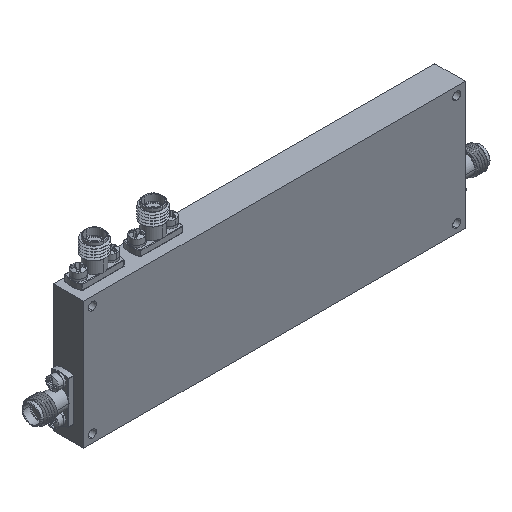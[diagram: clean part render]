
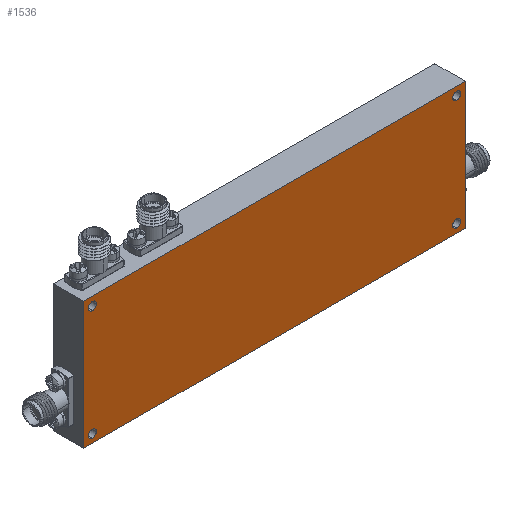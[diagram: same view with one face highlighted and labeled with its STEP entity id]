
A CAD part, isometric view. The second image highlights one B-rep face of the part: STEP entity #1536.
In plain terms, the highlighted planar face has unit normal (0, -1, 0).
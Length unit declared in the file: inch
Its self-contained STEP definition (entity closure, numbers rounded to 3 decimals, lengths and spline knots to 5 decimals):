
#170 = CARTESIAN_POINT ( 'NONE',  ( -1.996, -0.33, 0.6055 ) ) ;
#391 = CARTESIAN_POINT ( 'NONE',  ( -2.088, -0.33, -0.6975 ) ) ;
#949 = AXIS2_PLACEMENT_3D ( 'NONE', #170, #37890, #42890 ) ;
#955 = CARTESIAN_POINT ( 'NONE',  ( -1.996, -0.33, -0.6055 ) ) ;
#1498 = DIRECTION ( 'NONE',  ( 0., 0., -1. ) ) ;
#1536 = ADVANCED_FACE ( 'NONE', ( #36890, #20963, #8079, #33499, #34590 ), #8871, .F. ) ;
#1844 = EDGE_LOOP ( 'NONE', ( #38296, #38727, #9614, #21296 ) ) ;
#3209 = VERTEX_POINT ( 'NONE', #13714 ) ;
#3523 = CARTESIAN_POINT ( 'NONE',  ( 1.996, -0.33, -0.6055 ) ) ;
#5358 = DIRECTION ( 'NONE',  ( 0., -1., 0. ) ) ;
#5624 = CARTESIAN_POINT ( 'NONE',  ( 1.996, -0.33, -0.6485 ) ) ;
#5697 = CIRCLE ( 'NONE', #12882, 0.043 ) ;
#6558 = ORIENTED_EDGE ( 'NONE', *, *, #21764, .F. ) ;
#6742 = CIRCLE ( 'NONE', #14849, 0.043 ) ;
#6822 = ORIENTED_EDGE ( 'NONE', *, *, #42349, .F. ) ;
#6830 = ORIENTED_EDGE ( 'NONE', *, *, #43919, .F. ) ;
#7447 = EDGE_CURVE ( 'NONE', #39014, #39510, #9617, .T. ) ;
#7762 = CARTESIAN_POINT ( 'NONE',  ( 1.996, -0.33, 0.6055 ) ) ;
#8079 = FACE_BOUND ( 'NONE', #18017, .T. ) ;
#8117 = DIRECTION ( 'NONE',  ( 0., -1., 0. ) ) ;
#8611 = DIRECTION ( 'NONE',  ( 0., 0., 1. ) ) ;
#8871 = PLANE ( 'NONE',  #24248 ) ;
#9129 = ORIENTED_EDGE ( 'NONE', *, *, #26088, .F. ) ;
#9614 = ORIENTED_EDGE ( 'NONE', *, *, #7447, .F. ) ;
#9617 = LINE ( 'NONE', #35071, #52936 ) ;
#9668 = CIRCLE ( 'NONE', #24010, 0.043 ) ;
#11256 = AXIS2_PLACEMENT_3D ( 'NONE', #52025, #5358, #18256 ) ;
#11668 = DIRECTION ( 'NONE',  ( 0., 0., -1. ) ) ;
#11729 = CARTESIAN_POINT ( 'NONE',  ( -2.088, -0.33, 0.6975 ) ) ;
#11739 = ORIENTED_EDGE ( 'NONE', *, *, #37115, .F. ) ;
#12079 = VERTEX_POINT ( 'NONE', #5624 ) ;
#12632 = AXIS2_PLACEMENT_3D ( 'NONE', #7762, #41844, #33454 ) ;
#12882 = AXIS2_PLACEMENT_3D ( 'NONE', #16255, #8117, #50303 ) ;
#13076 = CIRCLE ( 'NONE', #11256, 0.043 ) ;
#13548 = EDGE_CURVE ( 'NONE', #40388, #39014, #52680, .T. ) ;
#13714 = CARTESIAN_POINT ( 'NONE',  ( -1.996, -0.33, -0.6485 ) ) ;
#13896 = DIRECTION ( 'NONE',  ( 0., 0., -1. ) ) ;
#13922 = EDGE_CURVE ( 'NONE', #39510, #31216, #38672, .T. ) ;
#13986 = VERTEX_POINT ( 'NONE', #50817 ) ;
#14214 = ORIENTED_EDGE ( 'NONE', *, *, #31932, .F. ) ;
#14441 = DIRECTION ( 'NONE',  ( 1., 0., 0. ) ) ;
#14849 = AXIS2_PLACEMENT_3D ( 'NONE', #21186, #47922, #13896 ) ;
#15699 = CARTESIAN_POINT ( 'NONE',  ( -2.088, -0.33, -0.6975 ) ) ;
#16255 = CARTESIAN_POINT ( 'NONE',  ( 1.996, -0.33, -0.6055 ) ) ;
#17465 = DIRECTION ( 'NONE',  ( -1., 0., 0. ) ) ;
#17524 = CARTESIAN_POINT ( 'NONE',  ( -2.088, -0.33, 0.6975 ) ) ;
#18017 = EDGE_LOOP ( 'NONE', ( #6558, #11739 ) ) ;
#18256 = DIRECTION ( 'NONE',  ( 0., 0., -1. ) ) ;
#18515 = CARTESIAN_POINT ( 'NONE',  ( -1.996, -0.33, 0.5625 ) ) ;
#18842 = CARTESIAN_POINT ( 'NONE',  ( -1.996, -0.33, 0.6055 ) ) ;
#18877 = VECTOR ( 'NONE', #17465, 39.37008 ) ;
#20963 = FACE_BOUND ( 'NONE', #28020, .T. ) ;
#21186 = CARTESIAN_POINT ( 'NONE',  ( -1.996, -0.33, -0.6055 ) ) ;
#21296 = ORIENTED_EDGE ( 'NONE', *, *, #13548, .F. ) ;
#21506 = EDGE_CURVE ( 'NONE', #12079, #52255, #52634, .T. ) ;
#21555 = VECTOR ( 'NONE', #14441, 39.37008 ) ;
#21764 = EDGE_CURVE ( 'NONE', #51776, #52760, #35731, .T. ) ;
#22430 = CIRCLE ( 'NONE', #12632, 0.043 ) ;
#22465 = ORIENTED_EDGE ( 'NONE', *, *, #31604, .F. ) ;
#24010 = AXIS2_PLACEMENT_3D ( 'NONE', #18842, #48688, #35862 ) ;
#24248 = AXIS2_PLACEMENT_3D ( 'NONE', #25150, #37972, #8611 ) ;
#25150 = CARTESIAN_POINT ( 'NONE',  ( 0., -0.33, 0. ) ) ;
#26088 = EDGE_CURVE ( 'NONE', #35935, #13986, #22430, .T. ) ;
#28020 = EDGE_LOOP ( 'NONE', ( #9129, #6830 ) ) ;
#31216 = VERTEX_POINT ( 'NONE', #50020 ) ;
#31476 = CARTESIAN_POINT ( 'NONE',  ( 1.996, -0.33, 0.5625 ) ) ;
#31604 = EDGE_CURVE ( 'NONE', #43045, #3209, #6742, .T. ) ;
#31932 = EDGE_CURVE ( 'NONE', #3209, #43045, #43357, .T. ) ;
#33454 = DIRECTION ( 'NONE',  ( 0., 0., -1. ) ) ;
#33499 = FACE_BOUND ( 'NONE', #42374, .T. ) ;
#34507 = DIRECTION ( 'NONE',  ( 0., 0., -1. ) ) ;
#34590 = FACE_BOUND ( 'NONE', #49546, .T. ) ;
#34757 = DIRECTION ( 'NONE',  ( 0., -1., 0. ) ) ;
#35071 = CARTESIAN_POINT ( 'NONE',  ( 2.088, -0.33, -0.6975 ) ) ;
#35691 = AXIS2_PLACEMENT_3D ( 'NONE', #3523, #45449, #11668 ) ;
#35731 = CIRCLE ( 'NONE', #949, 0.043 ) ;
#35862 = DIRECTION ( 'NONE',  ( 0., 0., -1. ) ) ;
#35935 = VERTEX_POINT ( 'NONE', #31476 ) ;
#36890 = FACE_OUTER_BOUND ( 'NONE', #1844, .T. ) ;
#37115 = EDGE_CURVE ( 'NONE', #52760, #51776, #9668, .T. ) ;
#37451 = LINE ( 'NONE', #15699, #43734 ) ;
#37890 = DIRECTION ( 'NONE',  ( 0., -1., 0. ) ) ;
#37972 = DIRECTION ( 'NONE',  ( 0., 1., 0. ) ) ;
#38257 = ORIENTED_EDGE ( 'NONE', *, *, #21506, .F. ) ;
#38296 = ORIENTED_EDGE ( 'NONE', *, *, #38484, .F. ) ;
#38484 = EDGE_CURVE ( 'NONE', #31216, #40388, #37451, .T. ) ;
#38672 = LINE ( 'NONE', #391, #18877 ) ;
#38727 = ORIENTED_EDGE ( 'NONE', *, *, #13922, .F. ) ;
#39014 = VERTEX_POINT ( 'NONE', #50676 ) ;
#39510 = VERTEX_POINT ( 'NONE', #54456 ) ;
#40388 = VERTEX_POINT ( 'NONE', #11729 ) ;
#41844 = DIRECTION ( 'NONE',  ( 0., -1., 0. ) ) ;
#42349 = EDGE_CURVE ( 'NONE', #52255, #12079, #5697, .T. ) ;
#42374 = EDGE_LOOP ( 'NONE', ( #14214, #22465 ) ) ;
#42890 = DIRECTION ( 'NONE',  ( 0., 0., -1. ) ) ;
#43045 = VERTEX_POINT ( 'NONE', #47333 ) ;
#43357 = CIRCLE ( 'NONE', #50516, 0.043 ) ;
#43734 = VECTOR ( 'NONE', #54523, 39.37008 ) ;
#43919 = EDGE_CURVE ( 'NONE', #13986, #35935, #13076, .T. ) ;
#45449 = DIRECTION ( 'NONE',  ( 0., -1., 0. ) ) ;
#47333 = CARTESIAN_POINT ( 'NONE',  ( -1.996, -0.33, -0.5625 ) ) ;
#47922 = DIRECTION ( 'NONE',  ( 0., -1., 0. ) ) ;
#48688 = DIRECTION ( 'NONE',  ( 0., -1., 0. ) ) ;
#48781 = CARTESIAN_POINT ( 'NONE',  ( -1.996, -0.33, 0.6485 ) ) ;
#49120 = CARTESIAN_POINT ( 'NONE',  ( 1.996, -0.33, -0.5625 ) ) ;
#49546 = EDGE_LOOP ( 'NONE', ( #38257, #6822 ) ) ;
#50020 = CARTESIAN_POINT ( 'NONE',  ( -2.088, -0.33, -0.6975 ) ) ;
#50303 = DIRECTION ( 'NONE',  ( 0., 0., -1. ) ) ;
#50516 = AXIS2_PLACEMENT_3D ( 'NONE', #955, #34757, #1498 ) ;
#50676 = CARTESIAN_POINT ( 'NONE',  ( 2.088, -0.33, 0.6975 ) ) ;
#50817 = CARTESIAN_POINT ( 'NONE',  ( 1.996, -0.33, 0.6485 ) ) ;
#51776 = VERTEX_POINT ( 'NONE', #18515 ) ;
#52025 = CARTESIAN_POINT ( 'NONE',  ( 1.996, -0.33, 0.6055 ) ) ;
#52255 = VERTEX_POINT ( 'NONE', #49120 ) ;
#52634 = CIRCLE ( 'NONE', #35691, 0.043 ) ;
#52680 = LINE ( 'NONE', #17524, #21555 ) ;
#52760 = VERTEX_POINT ( 'NONE', #48781 ) ;
#52936 = VECTOR ( 'NONE', #34507, 39.37008 ) ;
#54456 = CARTESIAN_POINT ( 'NONE',  ( 2.088, -0.33, -0.6975 ) ) ;
#54523 = DIRECTION ( 'NONE',  ( 0., 0., 1. ) ) ;
